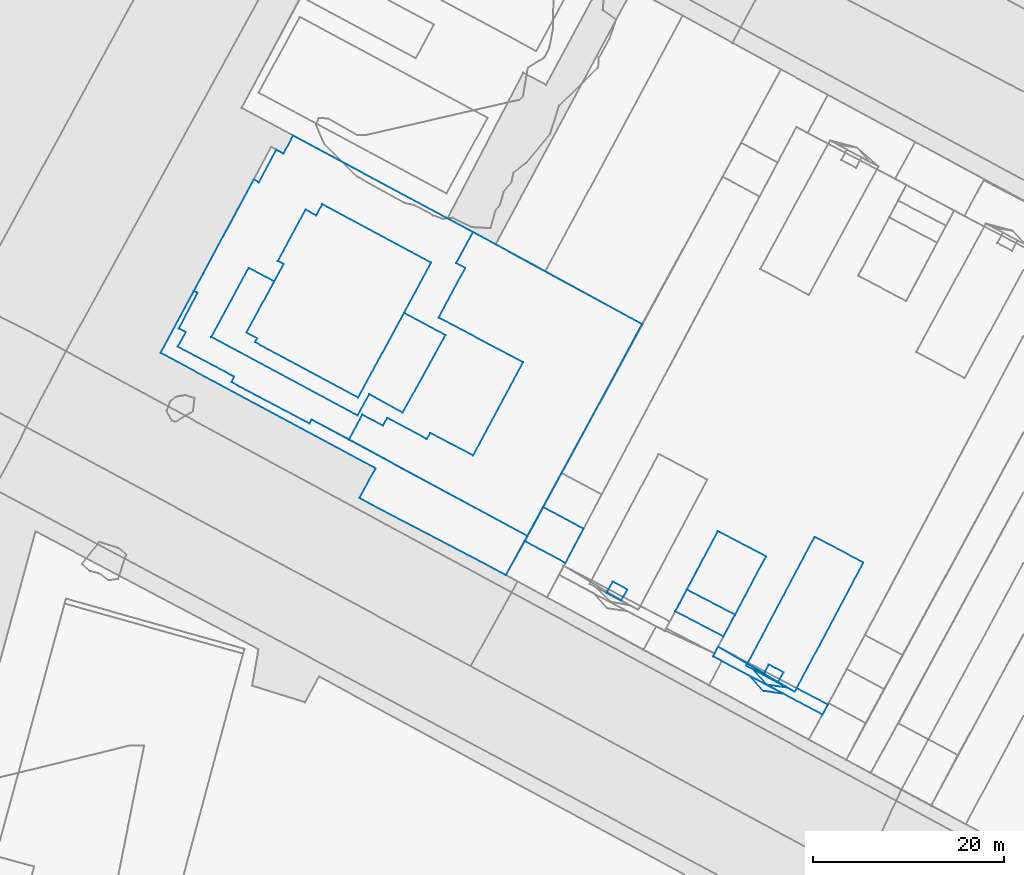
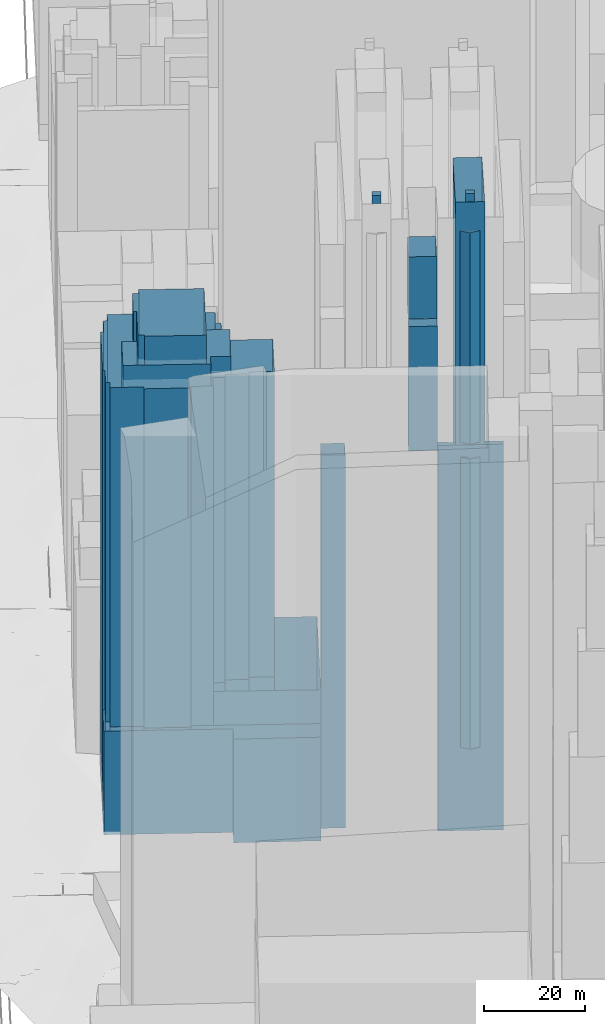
# Not in any storey, part 17 of 76: 14 walls.
"""IFC2X3 model written with IfcOpenShell, lengths in metres."""

import ifcopenshell
import ifcopenshell.guid

model = None  # the IFC model being written
_history = None  # IfcOwnerHistory: only IFC2X3 demands one
_inside = {}  # id of a spatial element -> (the spatial element, [elements in it])
_under = {}  # id of a project, library or spatial element -> (it, [spatial elements below it])
_declared = {}  # id of a project -> (the project, [libraries it declares])
_typed = {}  # id of a type object -> (the type object, [elements of that type])
_made_of = {}  # id of a material, layer set ... -> (it, [elements and type objects made of it])


def new_model(schema):
    """Start an empty IFC model of exactly this schema.

    Asked for "IFC4X3", IfcOpenShell would pick the latest addendum, in which some entities
    have other attributes; the version numbers below select the first issue.
    IFC2X3 requires an IfcOwnerHistory on every rooted entity: one is made here for all.
    """
    global model, _history
    if schema == "IFC4X3":
        model = ifcopenshell.file(schema_version=(4, 3, 0, 0))
    else:
        model = ifcopenshell.file(schema=schema)
    _inside.clear()
    _under.clear()
    _declared.clear()
    _typed.clear()
    _made_of.clear()
    _history = None
    if model.schema == "IFC2X3":
        org = make("IfcOrganization", Name="unknown")
        user = make(
            "IfcPersonAndOrganization",
            ThePerson=make("IfcPerson", FamilyName="unknown"),
            TheOrganization=org,
        )
        app = make(
            "IfcApplication",
            ApplicationDeveloper=org,
            Version="unknown",
            ApplicationFullName="unknown",
            ApplicationIdentifier="unknown",
        )
        _history = make(
            "IfcOwnerHistory",
            OwningUser=user,
            OwningApplication=app,
            ChangeAction="ADDED",
            CreationDate=0,
        )
    return model


def make(cls, **values):
    """One entity of the class cls with the attributes given. An attribute that is None is left unset."""
    return model.create_entity(
        cls, **{name: value for name, value in values.items() if value is not None}
    )


def rooted(cls, **values):
    """An entity with a GlobalId (a new one), such as an element, a storey or a relation."""
    return make(cls, GlobalId=ifcopenshell.guid.new(), OwnerHistory=_history, **values)


def si_unit(unit_type, name, prefix=None):
    """IfcSIUnit, for example si_unit("LENGTHUNIT", "METRE", prefix="MILLI")."""
    return make("IfcSIUnit", UnitType=unit_type, Prefix=prefix, Name=name)


def assignment(units):
    """IfcUnitAssignment: the units of a project."""
    return None if units is None else make("IfcUnitAssignment", Units=units)


def point(xyz):
    """IfcCartesianPoint."""
    return None if xyz is None else make("IfcCartesianPoint", Coordinates=xyz)


def direction(xyz):
    """IfcDirection."""
    return None if xyz is None else make("IfcDirection", DirectionRatios=xyz)


def frame(location, z_axis=None, x_axis=None):
    """IfcAxis2Placement3D, a coordinate frame: its origin and axes. An axis left out is left unset."""
    return make(
        "IfcAxis2Placement3D",
        Location=point(location),
        Axis=direction(z_axis),
        RefDirection=direction(x_axis),
    )


def origin_with_axes():
    """The frame at (0, 0, 0) with the z axis (0, 0, 1) and the x axis (1, 0, 0) written out."""
    return frame((0.0, 0.0, 0.0), z_axis=(0.0, 0.0, 1.0), x_axis=(1.0, 0.0, 0.0))


def place(relative_to, where):
    """IfcLocalPlacement: puts the frame where relative to a parent placement (None: the world)."""
    return make(
        "IfcLocalPlacement", PlacementRelTo=relative_to, RelativePlacement=where
    )


def context(
    kind, dimensions, precision=None, world=None, true_north=None, identifier=None
):
    """IfcGeometricRepresentationContext, for example the 3D "Model" context."""
    return make(
        "IfcGeometricRepresentationContext",
        ContextIdentifier=identifier,
        ContextType=kind,
        CoordinateSpaceDimension=dimensions,
        Precision=precision,
        WorldCoordinateSystem=world,
        TrueNorth=true_north,
    )


def subcontext(parent, identifier, kind, view, scale=None):
    """IfcGeometricRepresentationSubContext, for example "Body" below "Model"."""
    return make(
        "IfcGeometricRepresentationSubContext",
        ContextIdentifier=identifier,
        ContextType=kind,
        ParentContext=parent,
        TargetScale=scale,
        TargetView=view,
    )


def project(units=None, contexts=None):
    """IfcProject with its units and contexts."""
    return rooted(
        "IfcProject",
        Name="project",
        RepresentationContexts=contexts,
        UnitsInContext=assignment(units),
    )


def faces_of(points, faces, orient=None, outer=None):
    """IfcFace entities. A face is a list of loops; a loop is a list of indices into points, from 0.

    orient and outer hold one flag for each loop. By default every Orientation is true, the
    first loop of a face is its IfcFaceOuterBound and the others are IfcFaceBound.
    """
    made = []
    for i, loops in enumerate(faces):
        bounds = []
        for j, loop in enumerate(loops):
            is_outer = j == 0 if outer is None else outer[i][j]
            bounds.append(
                make(
                    "IfcFaceOuterBound" if is_outer else "IfcFaceBound",
                    Bound=make("IfcPolyLoop", Polygon=[points[k] for k in loop]),
                    Orientation=True if orient is None else orient[i][j],
                )
            )
        made.append(make("IfcFace", Bounds=bounds))
    return made


def faceted_brep(points, faces, orient=None, outer=None, voids=None):
    """IfcFacetedBrep: a solid bounded by flat faces; with voids (closed shells), ...WithVoids."""
    shared = [point(p) for p in points]
    hull = make("IfcClosedShell", CfsFaces=faces_of(shared, faces, orient, outer))
    if voids is None:
        return make("IfcFacetedBrep", Outer=hull)
    return make(
        "IfcFacetedBrepWithVoids",
        Outer=hull,
        Voids=[
            make(cls, CfsFaces=faces_of(shared, fs, o, b)) for cls, fs, o, b in voids
        ],
    )


def shape(context_of_items, identifier, shape_type, items):
    """IfcShapeRepresentation: the items that make up one representation, for example the "Body"."""
    return make(
        "IfcShapeRepresentation",
        ContextOfItems=context_of_items,
        RepresentationIdentifier=identifier,
        RepresentationType=shape_type,
        Items=items,
    )


def made_of(thing, what):
    """Note that an element or type object is made of a material, layer set ...; save() writes the relation."""
    if what is not None:
        _made_of.setdefault(what.id(), (what, []))[1].append(thing)
    return thing


def element(
    cls,
    number,
    at=None,
    inside=None,
    cuts=None,
    type_object=None,
    material=None,
    context=None,
    identifier="Body",
    shape_type=None,
    held_by="IfcProductDefinitionShape",
    body=None,
    shapes=None,
    **own,
):
    """One element of the class cls, such as IfcWall. Its Tag is "e" and its number.

    at: its placement. inside: the storey or other place that contains it. cuts: it is an
    opening in that element (IfcRelVoidsElement). A single representation is given by context,
    identifier, shape_type and body (its items); several are given by shapes. held_by: the class
    of the entity that holds the representations. save() writes the other relations.
    """
    e = rooted(cls, Tag="e%d" % number, ObjectPlacement=at, **own)
    if body is not None:
        shapes = [shape(context, identifier, shape_type, body)]
    if shapes is not None:
        e.Representation = make(held_by, Representations=shapes)
    if inside is not None:
        _inside.setdefault(inside.id(), (inside, []))[1].append(e)
    if cuts is not None:
        rooted(
            "IfcRelVoidsElement", RelatingBuildingElement=cuts, RelatedOpeningElement=e
        )
    if type_object is not None:
        _typed.setdefault(type_object.id(), (type_object, []))[1].append(e)
    return made_of(e, material)


def aggregate(whole, parts):
    """IfcRelAggregates: a whole, such as a stair, and the parts it consists of."""
    return rooted("IfcRelAggregates", RelatingObject=whole, RelatedObjects=parts)


def save(model, path):
    """Write the relations noted so far, then the file.

    IfcRelAggregates (storeys below a building ...), IfcRelContainedInSpatialStructure (elements
    in a storey), IfcRelDefinesByType, IfcRelAssociatesMaterial and IfcRelDeclares: one each for
    every whole, place, type object, material and project.
    """
    for whole, parts in _under.values():
        aggregate(whole, parts)
    for where, things in _inside.values():
        rooted(
            "IfcRelContainedInSpatialStructure",
            RelatedElements=things,
            RelatingStructure=where,
        )
    for kind, things in _typed.values():
        rooted("IfcRelDefinesByType", RelatedObjects=things, RelatingType=kind)
    for what, things in _made_of.values():
        rooted("IfcRelAssociatesMaterial", RelatedObjects=things, RelatingMaterial=what)
    for by, libraries in _declared.values():
        rooted("IfcRelDeclares", RelatingContext=by, RelatedDefinitions=libraries)
    model.write(path)


model = new_model("IFC2X3")

# Units and contexts
model_context = context("Model", 3, precision=1e-05, world=origin_with_axes())
body_context = subcontext(model_context, "Body", "Model", "MODEL_VIEW")
ifc_project = project(units=[si_unit("AREAUNIT", "SQUARE_METRE"), si_unit("LENGTHUNIT", "METRE")], contexts=[model_context])

# Walls
wall_1_placement = place(None, frame((106.7237532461, 117.4349641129, 171.8733820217), z_axis=(0.0, 0.0, 1.0), x_axis=(1.0, 0.0, 0.0)))
element("IfcWall", 1, at=wall_1_placement, Name="Mur 0", context=body_context, shape_type="Brep", body=[
    faceted_brep([(1.5373911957, -0.8148118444, 2.0), (0.0, 0.0, 2.0), (1.5373911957, -0.8148118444, 0.0), (0.0, 0.0, 0.0), (2.1242849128, 0.2578211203, 2.0), (2.1242849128, 0.2578211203, 0.0), (0.5952053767, 1.0838316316, 2.0), (0.5952053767, 1.0838316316, 0.0)], [[[0, 1, 2]], [[2, 1, 3]], [[4, 0, 5]], [[5, 0, 2]], [[1, 6, 3]], [[3, 6, 7]], [[6, 4, 7]], [[7, 4, 5]]]),
])
wall_2_placement = place(None, frame((105.7639228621, 117.9456215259, 113.8537947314), z_axis=(0.0, 0.0, 1.0), x_axis=(1.0, 0.0, 0.0)))
element("IfcWall", 2, at=wall_2_placement, Name="Mur 0", context=body_context, shape_type="Brep", body=[
    faceted_brep([(1.3516415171, -1.5386158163, 51.0), (0.0, 0.0, 51.0), (1.3516415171, -1.5386158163, 0.0), (0.0, 0.0, 0.0), (3.4401714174, -1.8363224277, 51.0), (3.4401714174, -1.8363224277, 0.0), (2.4972215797, -1.3254692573, 51.0), (2.4972215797, -1.3254692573, 0.0)], [[[0, 1, 2]], [[2, 1, 3]], [[4, 0, 5]], [[5, 0, 2]], [[1, 6, 3]], [[3, 6, 7]], [[6, 4, 7]], [[7, 4, 5]]]),
])
wall_3_placement = place(None, frame((101.4674692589, 119.3723193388, 20.7697572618), z_axis=(0.0, 0.0, 1.0), x_axis=(1.0, 0.0, 0.0)))
element("IfcWall", 3, at=wall_3_placement, Name="Mur 0", context=body_context, shape_type="Brep", body=[
    faceted_brep([(11.4839478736, -6.1060781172, 93.0), (0.0, 0.0, 93.0), (11.4839478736, -6.1060781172, 0.0), (0.0, 0.0, 0.0), (12.0459066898, -5.067041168, 93.0), (12.0459066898, -5.067041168, 0.0), (8.7673912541, -3.3398654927, 93.0), (8.7673912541, -3.3398654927, 0.0), (8.5775159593, -3.7084452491, 93.0), (8.5775159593, -3.7084452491, 0.0), (0.5287138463, 0.9942409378, 93.0), (0.5287138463, 0.9942409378, 0.0)], [[[0, 1, 2]], [[2, 1, 3]], [[4, 0, 5]], [[5, 0, 2]], [[6, 4, 7]], [[7, 4, 5]], [[8, 6, 9]], [[9, 6, 7]], [[1, 10, 3]], [[3, 10, 11]], [[10, 8, 11]], [[11, 8, 9]]]),
])
wall_4_placement = place(None, frame((105.4087196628, 117.2753608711, 40.8364053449), z_axis=(0.0, 0.0, 1.0), x_axis=(1.0, 0.0, 0.0)))
element("IfcWall", 4, at=wall_4_placement, Name="Mur 0", context=body_context, shape_type="Brep", body=[
    faceted_brep([(1.3598241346, -1.5163163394, 70.0), (0.0, 0.0, 70.0), (1.3598241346, -1.5163163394, 0.0), (0.0, 0.0, 0.0), (3.4400426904, -1.825221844, 70.0), (3.4400426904, -1.825221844, 0.0)], [[[0, 1, 2]], [[2, 1, 3]], [[1, 4, 3]], [[3, 4, 5]], [[4, 0, 5]], [[5, 0, 2]]]),
])
wall_5_placement = place(None, frame((104.948482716, 118.3802403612, 20.8364840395), z_axis=(0.0, 0.0, 1.0), x_axis=(1.0, 0.0, 0.0)))
element("IfcWall", 5, at=wall_5_placement, Name="Mur 0", context=body_context, shape_type="Brep", body=[
    faceted_brep([(5.0965025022, -2.7163662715, 151.0), (0.0, 0.0, 151.0), (5.0965025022, -2.7163662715, 0.0), (0.0, 0.0, 0.0), (12.2665233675, 10.8228483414, 151.0), (12.2665233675, 10.8228483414, 0.0), (7.1619736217, 13.5058093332, 151.0), (7.1619736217, 13.5058093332, 0.0)], [[[0, 1, 2]], [[2, 1, 3]], [[4, 0, 5]], [[5, 0, 2]], [[1, 6, 3]], [[3, 6, 7]], [[6, 4, 7]], [[7, 4, 5]]]),
])
wall_6_placement = place(None, frame((98.7355611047, 126.3683150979, 140.9622219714), z_axis=(0.0, 0.0, 1.0), x_axis=(1.0, 0.0, 0.0)))
element("IfcWall", 6, at=wall_6_placement, Name="Mur 0", context=body_context, shape_type="Brep", body=[
    faceted_brep([(5.0366380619, -2.6504521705, 15.0), (0.0, 0.0, 15.0), (5.0366380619, -2.6504521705, 0.0), (0.0, 0.0, 0.0), (8.2830739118, 3.4712880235, 15.0), (8.2830739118, 3.4712880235, 0.0), (3.2464387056, 6.1217379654, 15.0), (3.2464387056, 6.1217379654, 0.0)], [[[0, 1, 2]], [[2, 1, 3]], [[4, 0, 5]], [[5, 0, 2]], [[1, 6, 3]], [[3, 6, 7]], [[6, 4, 7]], [[7, 4, 5]]]),
])
wall_7_placement = place(None, frame((48.9439736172, 152.8241808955, 21.1794819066), z_axis=(0.0, 0.0, 1.0), x_axis=(1.0, 0.0, 0.0)))
element("IfcWall", 7, at=wall_7_placement, Name="Mur 0", context=body_context, shape_type="Brep", body=[
    faceted_brep([(15.3072963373, -8.2378124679, 110.0), (0.0, 0.0, 110.0), (15.3072963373, -8.2378124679, 0.0), (0.0, 0.0, 0.0), (16.539143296, -6.0030615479, 110.0), (16.539143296, -6.0030615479, 0.0), (20.031093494, -7.9387212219, 110.0), (20.031093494, -7.9387212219, 0.0), (24.5122266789, 0.1735393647, 110.0), (24.5122266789, 0.1735393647, 0.0), (20.1715989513, 2.4990246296, 110.0), (20.1715989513, 2.4990246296, 0.0), (15.3699209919, -6.3608053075, 110.0), (15.3699209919, -6.3608053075, 0.0), (4.5649061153, -0.5576359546, 110.0), (4.5649061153, -0.5576359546, 0.0), (4.788158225, -0.1553634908, 110.0), (4.788158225, -0.1553634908, 0.0), (3.6753780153, 0.4423431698, 110.0), (3.6753780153, 0.4423431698, 0.0), (6.5761073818, 5.8050944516, 110.0), (6.5761073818, 5.8050944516, 0.0), (3.9173823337, 7.2286264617, 110.0), (3.9173823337, 7.2286264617, 0.0)], [[[0, 1, 2]], [[2, 1, 3]], [[4, 0, 5]], [[5, 0, 2]], [[6, 4, 7]], [[7, 4, 5]], [[8, 6, 9]], [[9, 6, 7]], [[10, 8, 11]], [[11, 8, 9]], [[12, 10, 13]], [[13, 10, 11]], [[14, 12, 15]], [[15, 12, 13]], [[16, 14, 17]], [[17, 14, 15]], [[18, 16, 19]], [[19, 16, 17]], [[20, 18, 21]], [[21, 18, 19]], [[1, 22, 3]], [[3, 22, 23]], [[22, 20, 23]], [[23, 20, 21]]]),
])
wall_8_placement = place(None, frame((52.6193516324, 153.2665240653, 20.9538410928), z_axis=(0.0, 0.0, 1.0), x_axis=(1.0, 0.0, 0.0)))
element("IfcWall", 8, at=wall_8_placement, Name="Mur 0", context=body_context, shape_type="Brep", body=[
    faceted_brep([(1.1127802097, -0.5977066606, 116.0), (0.0, 0.0, 116.0), (1.1127802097, -0.5977066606, 0.0), (0.0, 0.0, 0.0), (0.8895281, -0.9999791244, 116.0), (0.8895281, -0.9999791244, 0.0), (11.6945429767, -6.8031484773, 116.0), (11.6945429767, -6.8031484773, 0.0), (19.3390148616, 7.3188466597, 116.0), (19.3390148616, 7.3188466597, 0.0), (7.9393204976, 13.448168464, 116.0), (7.9393204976, 13.448168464, 0.0), (7.3113819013, 12.2751425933, 116.0), (7.3113819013, 12.2751425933, 0.0), (6.1901626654, 12.8727503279, 116.0), (6.1901626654, 12.8727503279, 0.0), (3.2894387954, 7.5099976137, 116.0), (3.2894387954, 7.5099976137, 0.0), (3.8925728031, 7.1839315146, 116.0), (3.8925728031, 7.1839315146, 0.0)], [[[0, 1, 2]], [[2, 1, 3]], [[4, 0, 5]], [[5, 0, 2]], [[6, 4, 7]], [[7, 4, 5]], [[8, 6, 9]], [[9, 6, 7]], [[10, 8, 11]], [[11, 8, 9]], [[12, 10, 13]], [[13, 10, 11]], [[14, 12, 15]], [[15, 12, 13]], [[16, 14, 17]], [[17, 14, 15]], [[1, 18, 3]], [[3, 18, 19]], [[18, 16, 19]], [[19, 16, 17]]]),
])
wall_9_placement = place(None, frame((45.4357916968, 151.795361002, 20.6875388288), z_axis=(0.0, 0.0, 1.0), x_axis=(1.0, 0.0, 0.0)))
element("IfcWall", 9, at=wall_9_placement, Name="Mur 0", context=body_context, shape_type="Brep", body=[
    faceted_brep([(5.9203309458, -3.1509334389, 107.0), (0.0, 0.0, 107.0), (5.9203309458, -3.1509334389, 0.0), (0.0, 0.0, 0.0), (5.6146072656, -3.720696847, 107.0), (5.6146072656, -3.720696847, 0.0), (13.7856998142, -8.0556430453, 107.0), (13.7856998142, -8.0556430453, 0.0), (14.0088230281, -7.6422696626, 107.0), (14.0088230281, -7.6422696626, 0.0), (17.9245978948, -9.7284433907, 107.0), (17.9245978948, -9.7284433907, 0.0), (19.3210010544, -7.125408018, 107.0), (19.3210010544, -7.125408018, 0.0), (21.4785274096, -8.2771984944, 107.0), (21.4785274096, -8.2771984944, 0.0), (21.9247729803, -7.4504512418, 107.0), (21.9247729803, -7.4504512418, 0.0), (26.0784283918, -9.6670859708, 107.0), (26.0784283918, -9.6670859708, 0.0), (26.4255795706, -9.0302271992, 107.0), (26.4255795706, -9.0302271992, 0.0), (30.9185296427, -11.3872491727, 107.0), (30.9185296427, -11.3872491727, 0.0), (36.1572274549, -1.6341566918, 107.0), (36.1572274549, -1.6341566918, 0.0), (27.3067714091, 3.0481492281, 107.0), (27.3067714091, 3.0481492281, 0.0), (30.0995650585, 8.2542240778, 107.0), (30.0995650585, 8.2542240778, 0.0), (29.1483116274, 8.7538826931, 107.0), (29.1483116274, 8.7538826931, 0.0), (30.9087376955, 11.9939753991, 107.0), (30.9087376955, 11.9939753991, 0.0), (12.0765422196, 22.100429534, 107.0), (12.0765422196, 22.100429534, 0.0), (11.0601529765, 20.2123506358, 107.0), (11.0601529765, 20.2123506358, 0.0), (10.3126313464, 20.6144563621, 107.0), (10.3126313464, 20.6144563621, 0.0), (8.4781679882, 17.206975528, 107.0), (8.4781679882, 17.206975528, 0.0), (7.9428155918, 17.5116241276, 107.0), (7.9428155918, 17.5116241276, 0.0), (1.679905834, 5.8148724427, 107.0), (1.679905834, 5.8148724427, 0.0), (2.0700969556, 5.6528677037, 107.0), (2.0700969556, 5.6528677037, 0.0), (0.1044447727, 1.9107990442, 107.0), (0.1044447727, 1.9107990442, 0.0), (0.8347003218, 1.5417986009, 107.0), (0.8347003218, 1.5417986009, 0.0)], [[[0, 1, 2]], [[2, 1, 3]], [[4, 0, 5]], [[5, 0, 2]], [[6, 4, 7]], [[7, 4, 5]], [[8, 6, 9]], [[9, 6, 7]], [[10, 8, 11]], [[11, 8, 9]], [[12, 10, 13]], [[13, 10, 11]], [[14, 12, 15]], [[15, 12, 13]], [[16, 14, 17]], [[17, 14, 15]], [[18, 16, 19]], [[19, 16, 17]], [[20, 18, 21]], [[21, 18, 19]], [[22, 20, 23]], [[23, 20, 21]], [[24, 22, 25]], [[25, 22, 23]], [[26, 24, 27]], [[27, 24, 25]], [[28, 26, 29]], [[29, 26, 27]], [[30, 28, 31]], [[31, 28, 29]], [[32, 30, 33]], [[33, 30, 31]], [[34, 32, 35]], [[35, 32, 33]], [[36, 34, 37]], [[37, 34, 35]], [[38, 36, 39]], [[39, 36, 37]], [[40, 38, 41]], [[41, 38, 39]], [[42, 40, 43]], [[43, 40, 41]], [[44, 42, 45]], [[45, 42, 43]], [[46, 44, 47]], [[47, 44, 45]], [[48, 46, 49]], [[49, 46, 47]], [[1, 50, 3]], [[3, 50, 51]], [[50, 48, 51]], [[51, 48, 49]]]),
])
wall_10_placement = place(None, frame((63.3603895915, 142.0669176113, 21.031144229), z_axis=(0.0, 0.0, 1.0), x_axis=(1.0, 0.0, 0.0)))
element("IfcWall", 10, at=wall_10_placement, Name="Mur 0", context=body_context, shape_type="Brep", body=[
    faceted_brep([(18.6972361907, -10.1080082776, 33.0), (0.0, 0.0, 33.0), (18.6972361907, -10.1080082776, 0.0), (0.0, 0.0, 0.0), (30.6798296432, 12.080209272, 33.0), (30.6798296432, 12.080209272, 0.0), (12.9841398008, 21.7224187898, 33.0), (12.9841398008, 21.7224187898, 0.0), (11.2237137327, 18.4823260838, 33.0), (11.2237137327, 18.4823260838, 0.0), (12.1749671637, 17.9826674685, 33.0), (12.1749671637, 17.9826674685, 0.0), (9.3821735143, 12.7765926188, 33.0), (9.3821735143, 12.7765926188, 0.0), (18.2326295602, 8.0942866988, 33.0), (18.2326295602, 8.0942866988, 0.0), (12.993931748, -1.658805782, 33.0), (12.993931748, -1.658805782, 0.0), (8.5009816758, 0.6982161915, 33.0), (8.5009816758, 0.6982161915, 0.0), (8.1538304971, 0.0613574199, 33.0), (8.1538304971, 0.0613574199, 0.0), (4.0001750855, 2.2779921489, 33.0), (4.0001750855, 2.2779921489, 0.0), (3.5539295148, 1.4512448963, 33.0), (3.5539295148, 1.4512448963, 0.0), (1.3964031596, 2.6030353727, 33.0), (1.3964031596, 2.6030353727, 0.0)], [[[0, 1, 2]], [[2, 1, 3]], [[4, 0, 5]], [[5, 0, 2]], [[6, 4, 7]], [[7, 4, 5]], [[8, 6, 9]], [[9, 6, 7]], [[10, 8, 11]], [[11, 8, 9]], [[12, 10, 13]], [[13, 10, 11]], [[14, 12, 15]], [[15, 12, 13]], [[16, 14, 17]], [[17, 14, 15]], [[18, 16, 19]], [[19, 16, 17]], [[20, 18, 21]], [[21, 18, 19]], [[22, 20, 23]], [[23, 20, 21]], [[24, 22, 25]], [[25, 22, 23]], [[1, 26, 3]], [[3, 26, 27]], [[26, 24, 27]], [[27, 24, 25]]]),
])
wall_11_placement = place(None, frame((90.3149703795, 126.0151718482, 171.9493104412), z_axis=(0.0, 0.0, 1.0), x_axis=(1.0, 0.0, 0.0)))
element("IfcWall", 11, at=wall_11_placement, Name="Mur 0", context=body_context, shape_type="Brep", body=[
    faceted_brep([(1.5289471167, -0.8149132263, 2.0), (0.0, 0.0, 2.0), (1.5289471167, -0.8149132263, 0.0), (0.0, 0.0, 0.0), (2.1906461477, 0.358507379, 2.0), (2.1906461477, 0.358507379, 0.0), (0.6615702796, 1.1845212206, 2.0), (0.6615702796, 1.1845212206, 0.0)], [[[0, 1, 2]], [[2, 1, 3]], [[4, 0, 5]], [[5, 0, 2]], [[1, 6, 3]], [[3, 6, 7]], [[6, 4, 7]], [[7, 4, 5]]]),
])
wall_12_placement = place(None, frame((81.7767093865, 131.433841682, 21.0074778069), z_axis=(0.0, 0.0, 1.0), x_axis=(1.0, 0.0, 0.0)))
element("IfcWall", 12, at=wall_12_placement, Name="Mur 0", context=body_context, shape_type="Brep", body=[
    faceted_brep([(4.2388447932, -2.2822511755, 90.0), (0.0, 0.0, 90.0), (4.2388447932, -2.2822511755, 0.0), (0.0, 0.0, 0.0), (6.1388940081, 1.2925328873, 90.0), (6.1388940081, 1.2925328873, 0.0), (1.9339412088, 3.5640742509, 90.0), (1.9339412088, 3.5640742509, 0.0)], [[[0, 1, 2]], [[2, 1, 3]], [[4, 0, 5]], [[5, 0, 2]], [[1, 6, 3]], [[3, 6, 7]], [[6, 4, 7]], [[7, 4, 5]]]),
])
wall_13_placement = place(None, frame((43.6198790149, 151.1525582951, 20.8515693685), z_axis=(0.0, 0.0, 1.0), x_axis=(1.0, 0.0, 0.0)))
element("IfcWall", 13, at=wall_13_placement, Name="Mur 0", context=body_context, shape_type="Brep", body=[
    faceted_brep([(22.5189582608, -12.0954008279, 25.0), (0.0, 0.0, 25.0), (22.5189582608, -12.0954008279, 0.0), (0.0, 0.0, 0.0), (20.8331965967, -15.2236014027, 25.0), (20.8331965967, -15.2236014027, 0.0), (36.1635464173, -23.2612748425, 25.0), (36.1635464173, -23.2612748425, 0.0), (38.4377467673, -19.1936489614, 25.0), (38.4377467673, -19.1936489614, 0.0), (15.8247357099, -6.9994669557, 25.0), (15.8247357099, -6.9994669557, 0.0), (15.6016124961, -7.4128403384, 25.0), (15.6016124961, -7.4128403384, 0.0), (7.4305199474, -3.07789414, 25.0), (7.4305199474, -3.07789414, 0.0), (7.7362436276, -2.508130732, 25.0), (7.7362436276, -2.508130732, 0.0), (1.8159126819, 0.6428027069, 25.0), (1.8159126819, 0.6428027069, 0.0), (2.6506130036, 2.1846013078, 25.0), (2.6506130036, 2.1846013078, 0.0), (1.9203574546, 2.5536017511, 25.0), (1.9203574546, 2.5536017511, 0.0), (3.8860096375, 6.2956704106, 25.0), (3.8860096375, 6.2956704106, 0.0), (3.4958185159, 6.4576751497, 25.0), (3.4958185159, 6.4576751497, 0.0)], [[[0, 1, 2]], [[2, 1, 3]], [[4, 0, 5]], [[5, 0, 2]], [[6, 4, 7]], [[7, 4, 5]], [[8, 6, 9]], [[9, 6, 7]], [[10, 8, 11]], [[11, 8, 9]], [[12, 10, 13]], [[13, 10, 11]], [[14, 12, 15]], [[15, 12, 13]], [[16, 14, 17]], [[17, 14, 15]], [[18, 16, 19]], [[19, 16, 17]], [[20, 18, 21]], [[21, 18, 19]], [[22, 20, 23]], [[23, 20, 21]], [[24, 22, 25]], [[25, 22, 23]], [[1, 26, 3]], [[3, 26, 27]], [[26, 24, 27]], [[27, 24, 25]]]),
])
wall_14_placement = place(None, frame((97.5295573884, 124.0894496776, 110.9435975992), z_axis=(0.0, 0.0, 1.0), x_axis=(1.0, 0.0, 0.0)))
element("IfcWall", 14, at=wall_14_placement, Name="Mur 0", context=body_context, shape_type="Brep", body=[
    faceted_brep([(5.0366391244, -2.6504529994, 30.0), (0.0, 0.0, 30.0), (5.0366391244, -2.6504529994, 0.0), (0.0, 0.0, 0.0), (6.2426417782, -0.3715867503, 30.0), (6.2426417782, -0.3715867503, 0.0), (1.2060037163, 2.2788654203, 30.0), (1.2060037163, 2.2788654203, 0.0)], [[[0, 1, 2]], [[2, 1, 3]], [[4, 0, 5]], [[5, 0, 2]], [[1, 6, 3]], [[3, 6, 7]], [[6, 4, 7]], [[7, 4, 5]]]),
])

save(model, "model.ifc")
